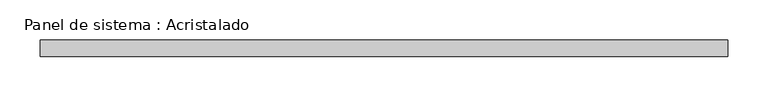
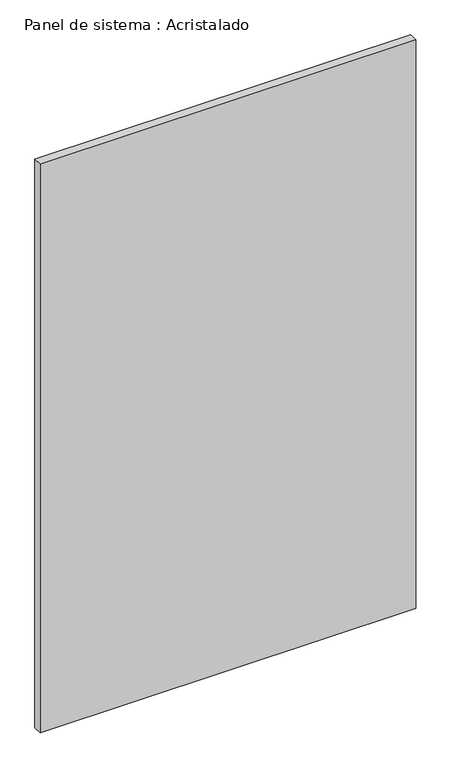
"""IFC4 building model written with IfcOpenShell, lengths in millimetres: plate geometry, Panel de sistema : Acristalado."""

from ifc_helpers import new_model, si_unit, origin, origin_with_axes, place, context, project, spatial, polyline, outline, extrude, source, transform, mapped, element, save


def panel_de_sistema_acristalado_c7bb49af(model_context):
    return source(origin(), model_context, "Body", "SweptSolid", [
        extrude(outline(polyline([(425.0, -10.0), (-425.0, -10.0), (-425.0, 10.0), (425.0, 10.0), (425.0, -10.0)])), origin_with_axes(), (0.0, 0.0, 1.0), 1360.0),
    ])


if __name__ == "__main__":
    model = new_model("IFC4")
    model_context = context("Model", 3, world=origin())
    ifc_project = project(units=[si_unit("LENGTHUNIT", "METRE", prefix="MILLI")], contexts=[model_context])
    site = spatial("IfcSite", under=ifc_project)
    building = spatial("IfcBuilding", under=site)
    placement = place(None, origin())
    panel_de_sistema_acristalado_shape = panel_de_sistema_acristalado_c7bb49af(model_context)
    element("IfcPlate", 1, ObjectType="Panel de sistema : Acristalado", at=placement, inside=building, context=model_context, shape_type="MappedRepresentation", body=[
        mapped(panel_de_sistema_acristalado_shape, transform((0.0, 0.0, 0.0), x_axis=(1.0, 0.0, 0.0), y_axis=(0.0, 1.0, 0.0), z_axis=(0.0, 0.0, 1.0))),
    ])
    save(model, "model.ifc")
